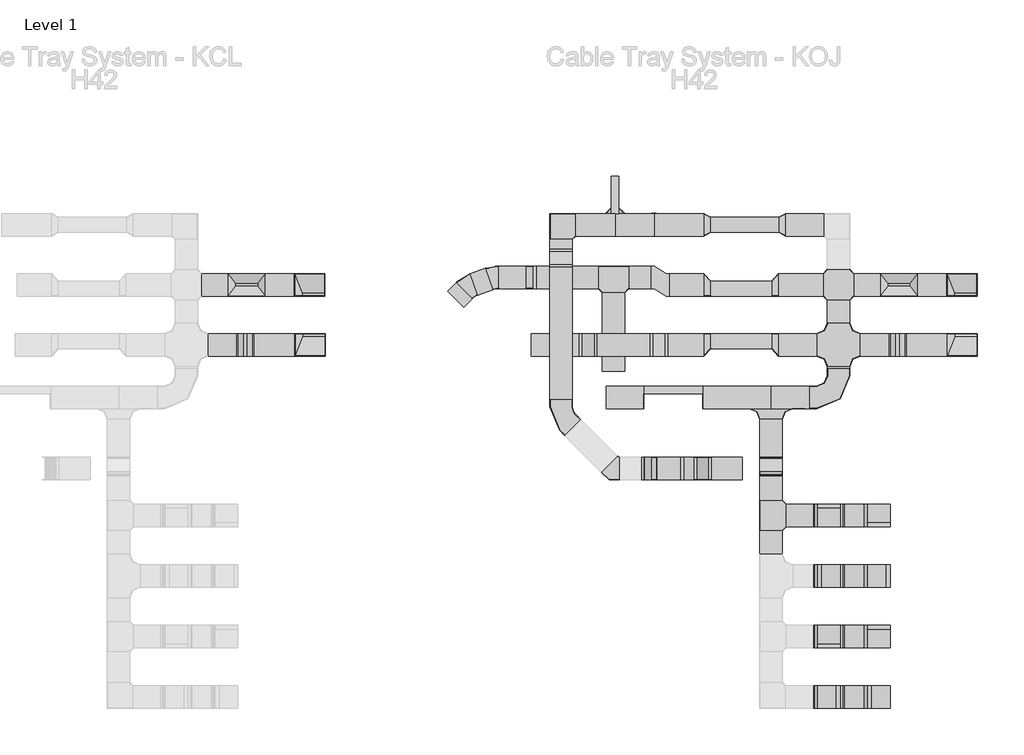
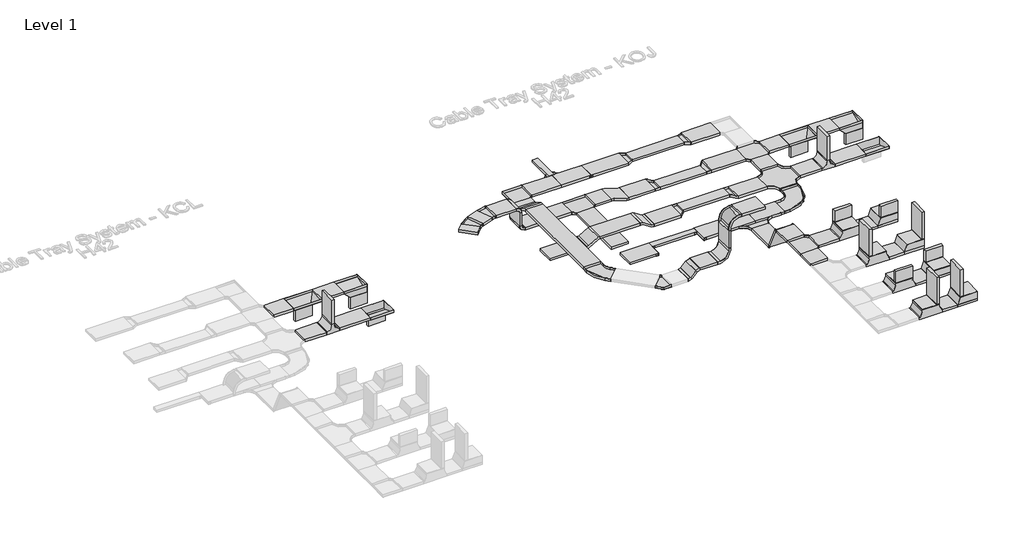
# One storey, part 3 of 106: 65 cable carrier segments, 50 cable carrier fittings.
"""IFC4 building model written with IfcOpenShell, lengths in millimetres."""

from ifc_helpers import new_model, si_unit, frame, origin, place, context, project, spatial, polyline, outline, extrude, transform, mapped, element, save
from components import cable_carrier_fitting_2f03b0e3, cable_carrier_fitting_e5c8e40d, cable_carrier_fitting_89415aa4, cable_carrier_fitting_efa56db2, cable_carrier_fitting_91cb0ece, cable_carrier_fitting_9cc64f74, cable_carrier_fitting_881c8fdb, cable_carrier_fitting_302010ec, cable_carrier_fitting_bee8c25e, cable_carrier_fitting_2b67af39, cable_carrier_fitting_400b97e6, cable_carrier_fitting_736d034b, cable_carrier_fitting_af289c29, cable_carrier_fitting_3ff81d9b, cable_carrier_fitting_7d5806c9, cable_carrier_fitting_0ce080ce, cable_carrier_fitting_1724e2f5, cable_carrier_fitting_0e05e12f, cable_carrier_fitting_aa4403b1, cable_carrier_fitting_df0feb0d, cable_carrier_fitting_b8cc1d00, cable_carrier_fitting_19ef2403, cable_carrier_fitting_0fee3a18, cable_carrier_fitting_e93d4d17, cable_carrier_fitting_f62230c1, cable_carrier_fitting_68112528, cable_carrier_fitting_3c0e6721, cable_carrier_fitting_94ef316f, cable_carrier_fitting_d4aa8912, cable_carrier_fitting_70c157f5, cable_carrier_fitting_f138ef00, cable_carrier_fitting_b296faec, cable_carrier_fitting_717dd42d, cable_carrier_fitting_55953e98, cable_carrier_fitting_c1d9b0e5, rkj200_h42_1d64d163, rkj200_h42_0f858a6a

model = new_model("IFC4")

# Units and contexts
model_context = context("Model", 3, world=origin())
ifc_project = project(units=[si_unit("LENGTHUNIT", "METRE", prefix="MILLI")], contexts=[model_context])

# Site, building, storey
site = spatial("IfcSite", under=ifc_project)
building = spatial("IfcBuilding", under=site)
storey = spatial("IfcBuildingStorey", under=building, Name="Level 1", Elevation=0.0)

# Cable carrier fittings
placement = place(None, origin())
cable_carrier_fitting_shape = cable_carrier_fitting_2f03b0e3(model_context)
element("IfcCableCarrierFitting", 1, ObjectType="BAKS_Vertical tee symetrical : TRSNJ_H42", at=placement, inside=storey, context=model_context, shape_type="MappedRepresentation", body=[
    mapped(cable_carrier_fitting_shape, transform((-15558.1670538, 44980.8714214, 0.0), x_axis=(1.0, 0.0, 0.0), y_axis=(0.0, -1.0, 0.0), z_axis=(0.0, 0.0, -1.0))),
])
element("IfcCableCarrierFitting", 2, ObjectType="BAKS_Vertical tee symetrical : TRSNJ_H42", at=placement, inside=storey, context=model_context, shape_type="MappedRepresentation", body=[
    mapped(cable_carrier_fitting_shape, transform((-6858.1670538, 44980.8714214, 0.0), x_axis=(1.0, 0.0, 0.0), y_axis=(0.0, -1.0, 0.0), z_axis=(0.0, 0.0, -1.0))),
])
cable_carrier_fitting_2_shape = cable_carrier_fitting_e5c8e40d(model_context)
element("IfcCableCarrierFitting", 3, ObjectType="BAKS_SUB_Corner connector : LRJ_H42", at=placement, inside=storey, context=model_context, shape_type="MappedRepresentation", body=[
    mapped(cable_carrier_fitting_2_shape, transform((-10675.1670538, 46730.8714214, -21.0), x_axis=(-1.0, 0.0, 0.0), y_axis=(0.0, -1.0, 0.0), z_axis=(0.0, 0.0, 1.0))),
])
element("IfcCableCarrierFitting", 4, ObjectType="BAKS_SUB_Corner connector : LRJ_H42", at=placement, inside=storey, context=model_context, shape_type="MappedRepresentation", body=[
    mapped(cable_carrier_fitting_2_shape, transform((-10575.1670538, 46730.8714214, -21.0), x_axis=(0.0, 1.0, 0.0), y_axis=(-1.0, 0.0, 0.0), z_axis=(0.0, 0.0, 1.0))),
])
cable_carrier_fitting_3_shape = cable_carrier_fitting_89415aa4(model_context)
element("IfcCableCarrierFitting", 5, ObjectType="BAKS_Horizontal bend : KKBL/KKMBL_H42", at=placement, inside=storey, context=model_context, shape_type="MappedRepresentation", body=[
    mapped(cable_carrier_fitting_3_shape, transform((-10643.6670538, 43331.3714214, 100.0), x_axis=(0.7071067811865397, -0.7071067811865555, 0.0), y_axis=(0.7071067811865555, 0.7071067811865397, 0.0), z_axis=(0.0, 0.0, 1.0))),
])
cable_carrier_fitting_4_shape = cable_carrier_fitting_efa56db2(model_context)
element("IfcCableCarrierFitting", 6, ObjectType="BAKS_Horizontal bypass : OPZNJ_H42", at=placement, inside=storey, context=model_context, shape_type="MappedRepresentation", body=[
    mapped(cable_carrier_fitting_4_shape, transform((-10022.1670538, 45780.8714214, 0.0), x_axis=(-1.0, 0.0, 0.0), y_axis=(0.0, 1.0, 0.0), z_axis=(0.0, 0.0, -1.0))),
])
cable_carrier_fitting_5_shape = cable_carrier_fitting_91cb0ece(model_context)
element("IfcCableCarrierFitting", 7, ObjectType="BAKS_Horizontal cross over : CZKL_H42", at=placement, inside=storey, context=model_context, shape_type="MappedRepresentation", body=[
    mapped(cable_carrier_fitting_5_shape, transform((-7643.1670538, 45780.8714214, 0.0), x_axis=(0.0, -1.0, 0.0), y_axis=(1.0, 0.0, 0.0), z_axis=(0.0, 0.0, 1.0))),
])
cable_carrier_fitting_6_shape = cable_carrier_fitting_9cc64f74(model_context)
element("IfcCableCarrierFitting", 8, ObjectType="BAKS_Horizontal tee : TKL_H42", at=placement, inside=storey, context=model_context, shape_type="MappedRepresentation", body=[
    mapped(cable_carrier_fitting_6_shape, transform((-10643.6670538, 45880.8714214, 0.0), x_axis=(1.0, 0.0, 0.0), y_axis=(0.0, 1.0, 0.0), z_axis=(0.0, 0.0, 1.0))),
])
element("IfcCableCarrierFitting", 9, ObjectType="BAKS_Horizontal tee : TKL_H42", at=placement, inside=storey, context=model_context, shape_type="MappedRepresentation", body=[
    mapped(cable_carrier_fitting_6_shape, transform((-8546.1670538, 42703.8631068, 432.5277378), x_axis=(0.0, 1.0, 0.0), y_axis=(-1.0, 0.0, 0.0), z_axis=(0.0, 0.0, 1.0))),
])
cable_carrier_fitting_7_shape = cable_carrier_fitting_881c8fdb(model_context)
element("IfcCableCarrierFitting", 10, ObjectType="BAKS_Universal elbow : KRUMJ_H42", at=placement, inside=storey, context=model_context, shape_type="MappedRepresentation", body=[
    mapped(cable_carrier_fitting_7_shape, transform((-7306.1670538, 41896.5802898, 432.5277378), x_axis=(1.0, 0.0, 0.0), y_axis=(0.0, 1.0, 0.0), z_axis=(0.0, 0.0, 1.0))),
])
cable_carrier_fitting_8_shape = cable_carrier_fitting_302010ec(model_context)
element("IfcCableCarrierFitting", 11, ObjectType="BAKS_Universal tee : TRUNJ_H42", at=placement, inside=storey, context=model_context, shape_type="MappedRepresentation", body=[
    mapped(cable_carrier_fitting_8_shape, transform((-7773.5199976, 41896.5802898, 432.5277378), x_axis=(-1.0, 0.0, 0.0), y_axis=(0.0, -1.0, 0.0), z_axis=(0.0, 0.0, 1.0))),
])
cable_carrier_fitting_9_shape = cable_carrier_fitting_bee8c25e(model_context)
element("IfcCableCarrierFitting", 12, ObjectType="BAKS_Vertical bend adjustable : LLL/LLJ_H42", at=placement, inside=storey, context=model_context, shape_type="MappedRepresentation", body=[
    mapped(cable_carrier_fitting_9_shape, transform((-9546.2659001, 43331.3714214, 237.4011537), x_axis=(1.0, 0.0, 0.0), y_axis=(0.0, 0.0, 1.0), z_axis=(0.0, -1.0, 0.0))),
])
element("IfcCableCarrierFitting", 13, ObjectType="BAKS_Vertical bend adjustable : LLL/LLJ_H42", at=placement, inside=storey, context=model_context, shape_type="MappedRepresentation", body=[
    mapped(cable_carrier_fitting_9_shape, transform((-9546.2659001, 43331.3714214, 977.4011537), x_axis=(0.0, 0.0, 1.0), y_axis=(1.0, 0.0, 0.0), z_axis=(0.0, 1.0, 0.0))),
])
cable_carrier_fitting_10_shape = cable_carrier_fitting_2b67af39(model_context)
element("IfcCableCarrierFitting", 14, ObjectType="BAKS_Vertical bypass : OPNNJ_H42", at=placement, inside=storey, context=model_context, shape_type="MappedRepresentation", body=[
    mapped(cable_carrier_fitting_10_shape, transform((-10986.6670538, 44980.8714214, 100.0), x_axis=(-1.0, 0.0, 0.0), y_axis=(0.0, -1.0, 0.0), z_axis=(0.0, 0.0, 1.0))),
])
cable_carrier_fitting_11_shape = cable_carrier_fitting_400b97e6(model_context)
element("IfcCableCarrierFitting", 15, ObjectType="BAKS_Vertical elbow left : KRLBJ_H42", at=placement, inside=storey, context=model_context, shape_type="MappedRepresentation", body=[
    mapped(cable_carrier_fitting_11_shape, transform((-14908.1670538, 45780.8714214, 0.0), x_axis=(1.0, 0.0, 0.0), y_axis=(0.0, 1.0, 0.0), z_axis=(0.0, 0.0, 1.0))),
])
element("IfcCableCarrierFitting", 16, ObjectType="BAKS_Vertical elbow left : KRLBJ_H42", at=placement, inside=storey, context=model_context, shape_type="MappedRepresentation", body=[
    mapped(cable_carrier_fitting_11_shape, transform((-6208.1670538, 45780.8714214, 0.0), x_axis=(1.0, 0.0, 0.0), y_axis=(0.0, 1.0, 0.0), z_axis=(0.0, 0.0, 1.0))),
])
cable_carrier_fitting_12_shape = cable_carrier_fitting_736d034b(model_context)
element("IfcCableCarrierFitting", 17, ObjectType="BAKS_Vertical tee lengthwise : TRBJ_H42", at=placement, inside=storey, context=model_context, shape_type="MappedRepresentation", body=[
    mapped(cable_carrier_fitting_12_shape, transform((-15538.1670538, 45780.8714214, 0.0), x_axis=(-1.0, 0.0, 0.0), y_axis=(0.0, -1.0, 0.0), z_axis=(0.0, 0.0, 1.0))),
])
element("IfcCableCarrierFitting", 18, ObjectType="BAKS_Vertical tee lengthwise : TRBJ_H42", at=placement, inside=storey, context=model_context, shape_type="MappedRepresentation", body=[
    mapped(cable_carrier_fitting_12_shape, transform((-6838.1670538, 45780.8714214, 0.0), x_axis=(-1.0, 0.0, 0.0), y_axis=(0.0, -1.0, 0.0), z_axis=(0.0, 0.0, 1.0))),
])
cable_carrier_fitting_13_shape = cable_carrier_fitting_af289c29(model_context)
element("IfcCableCarrierFitting", 19, ObjectType="BAKS_Articulated_connector : LGJ_H42", at=placement, inside=storey, context=model_context, shape_type="MappedRepresentation", body=[
    mapped(cable_carrier_fitting_13_shape, transform((-8546.1670538, 43458.7056523, 0.0), x_axis=(0.0, -1.0, 0.0), y_axis=(0.0, 0.0, 1.0), z_axis=(-1.0, 0.0, 0.0))),
])
element("IfcCableCarrierFitting", 20, ObjectType="BAKS_Articulated_connector : LGJ_H42", at=placement, inside=storey, context=model_context, shape_type="MappedRepresentation", body=[
    mapped(cable_carrier_fitting_13_shape, transform((-8546.1670538, 43257.0146558, 432.5277378), x_axis=(0.0, -0.42261826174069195, 0.9063077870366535), y_axis=(0.0, -0.9063077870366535, -0.42261826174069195), z_axis=(1.0, 0.0, 0.0))),
])
cable_carrier_fitting_14_shape = cable_carrier_fitting_3ff81d9b(model_context)
element("IfcCableCarrierFitting", 21, ObjectType="BAKS_Universal tee : TRUNJ_H42", at=placement, inside=storey, context=model_context, shape_type="MappedRepresentation", body=[
    mapped(cable_carrier_fitting_14_shape, transform((-7773.5199976, 42703.8631068, 432.5277378), x_axis=(-1.0, 0.0, 0.0), y_axis=(0.0, -1.0, 0.0), z_axis=(0.0, 0.0, 1.0))),
])
cable_carrier_fitting_15_shape = cable_carrier_fitting_7d5806c9(model_context)
element("IfcCableCarrierFitting", 22, ObjectType="BAKS_Universal tee : TRUNJ_H42", at=placement, inside=storey, context=model_context, shape_type="MappedRepresentation", body=[
    mapped(cable_carrier_fitting_15_shape, transform((-7773.5199976, 41089.2974728, 432.5277378), x_axis=(-1.0, 0.0, 0.0), y_axis=(0.0, -1.0, 0.0), z_axis=(0.0, 0.0, 1.0))),
])
cable_carrier_fitting_16_shape = cable_carrier_fitting_0ce080ce(model_context)
element("IfcCableCarrierFitting", 23, ObjectType="BAKS_Universal tee : TRUNJ_H42", at=placement, inside=storey, context=model_context, shape_type="MappedRepresentation", body=[
    mapped(cable_carrier_fitting_16_shape, transform((-7773.5199976, 40282.0146558, 432.5277378), x_axis=(-1.0, 0.0, 0.0), y_axis=(0.0, -1.0, 0.0), z_axis=(0.0, 0.0, 1.0))),
])
cable_carrier_fitting_17_shape = cable_carrier_fitting_1724e2f5(model_context)
element("IfcCableCarrierFitting", 24, ObjectType="BAKS_Vertical bypass : OPNNJ_H42", at=placement, inside=storey, context=model_context, shape_type="MappedRepresentation", body=[
    mapped(cable_carrier_fitting_17_shape, transform((-10043.6670538, 44980.8714214, 0.0), x_axis=(-1.0, 0.0, 0.0), y_axis=(0.0, -1.0, 0.0), z_axis=(0.0, 0.0, 1.0))),
])
element("IfcCableCarrierFitting", 25, ObjectType="BAKS_Vertical bypass : OPNNJ_H42", at=placement, inside=storey, context=model_context, shape_type="MappedRepresentation", body=[
    mapped(cable_carrier_fitting_17_shape, transform((-11343.1670538, 46139.3714214, 0.0), x_axis=(0.0, -1.0, 0.0), y_axis=(1.0, 0.0, 0.0), z_axis=(0.0, 0.0, 1.0))),
])
cable_carrier_fitting_18_shape = cable_carrier_fitting_0e05e12f(model_context)
element("IfcCableCarrierFitting", 26, ObjectType="BAKS_Universal elbow : KRUMJ_H42", at=placement, inside=storey, context=model_context, shape_type="MappedRepresentation", body=[
    mapped(cable_carrier_fitting_18_shape, transform((-7306.1670538, 42703.8631068, 432.5277378), x_axis=(1.0, 0.0, 0.0), y_axis=(0.0, 1.0, 0.0), z_axis=(0.0, 0.0, 1.0))),
])
cable_carrier_fitting_19_shape = cable_carrier_fitting_aa4403b1(model_context)
element("IfcCableCarrierFitting", 27, ObjectType="BAKS_Universal elbow : KRUMJ_H42", at=placement, inside=storey, context=model_context, shape_type="MappedRepresentation", body=[
    mapped(cable_carrier_fitting_19_shape, transform((-7306.1670538, 41089.2974728, 432.5277378), x_axis=(1.0, 0.0, 0.0), y_axis=(0.0, 1.0, 0.0), z_axis=(0.0, 0.0, 1.0))),
])
cable_carrier_fitting_20_shape = cable_carrier_fitting_df0feb0d(model_context)
element("IfcCableCarrierFitting", 28, ObjectType="BAKS_Universal elbow : KRUMJ_H42", at=placement, inside=storey, context=model_context, shape_type="MappedRepresentation", body=[
    mapped(cable_carrier_fitting_20_shape, transform((-7306.1670538, 40282.0146558, 432.5277378), x_axis=(1.0, 0.0, 0.0), y_axis=(0.0, 1.0, 0.0), z_axis=(0.0, 0.0, 1.0))),
])
cable_carrier_fitting_21_shape = cable_carrier_fitting_b8cc1d00(model_context)
element("IfcCableCarrierFitting", 29, ObjectType="BAKS_Vertical elbow right : KRPJ_H42", at=placement, inside=storey, context=model_context, shape_type="MappedRepresentation", body=[
    mapped(cable_carrier_fitting_21_shape, transform((-14902.1670538, 44980.8714214, 0.0), x_axis=(1.0, 0.0, 0.0), y_axis=(0.0, 1.0, 0.0), z_axis=(0.0, 0.0, 1.0))),
])
element("IfcCableCarrierFitting", 30, ObjectType="BAKS_Vertical elbow right : KRPJ_H42", at=placement, inside=storey, context=model_context, shape_type="MappedRepresentation", body=[
    mapped(cable_carrier_fitting_21_shape, transform((-6202.1670538, 44980.8714214, 0.0), x_axis=(1.0, 0.0, 0.0), y_axis=(0.0, 1.0, 0.0), z_axis=(0.0, 0.0, 1.0))),
])
cable_carrier_fitting_22_shape = cable_carrier_fitting_19ef2403(model_context)
element("IfcCableCarrierFitting", 31, ObjectType="BAKS_Adjustable bend : KKRPJ_H42", at=placement, inside=storey, context=model_context, shape_type="MappedRepresentation", body=[
    mapped(cable_carrier_fitting_22_shape, transform((-12581.9563973, 45757.7441698, 400.0), x_axis=(-0.9396926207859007, -0.34202014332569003, 0.0), y_axis=(0.34202014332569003, -0.9396926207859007, 0.0), z_axis=(0.0, 0.0, 1.0))),
])
cable_carrier_fitting_23_shape = cable_carrier_fitting_0fee3a18(model_context)
element("IfcCableCarrierFitting", 32, ObjectType="BAKS_Adjustable bend : KKRPJ_H42", at=placement, inside=storey, context=model_context, shape_type="MappedRepresentation", body=[
    mapped(cable_carrier_fitting_23_shape, transform((-12243.6670538, 45880.8714214, 400.0), x_axis=(-1.0, 0.0, 0.0), y_axis=(0.0, -1.0, 0.0), z_axis=(0.0, 0.0, 1.0))),
])
cable_carrier_fitting_24_shape = cable_carrier_fitting_e93d4d17(model_context)
element("IfcCableCarrierFitting", 33, ObjectType="BAKS_Plate connector : LPMU_H42", at=placement, inside=storey, context=model_context, shape_type="MappedRepresentation", body=[
    mapped(cable_carrier_fitting_24_shape, transform((-10103.1670538, 46580.8714214, 0.0), x_axis=(1.0, 0.0, 0.0), y_axis=(0.0, 1.0, 0.0), z_axis=(0.0, 0.0, 1.0))),
])
cable_carrier_fitting_25_shape = cable_carrier_fitting_f62230c1(model_context)
element("IfcCableCarrierFitting", 34, ObjectType="BAKS_Vertical bend LU : LLJ_H42", at=placement, inside=storey, context=model_context, shape_type="MappedRepresentation", body=[
    mapped(cable_carrier_fitting_25_shape, transform((-11743.6670538, 45880.8714214, 0.0), x_axis=(-1.0, 0.0, 0.0), y_axis=(0.0, 0.0, 1.0), z_axis=(0.0, 1.0, 0.0))),
])
element("IfcCableCarrierFitting", 35, ObjectType="BAKS_Vertical bend LU : LLJ_H42", at=placement, inside=storey, context=model_context, shape_type="MappedRepresentation", body=[
    mapped(cable_carrier_fitting_25_shape, transform((-11743.6670538, 45880.8714214, 400.0), x_axis=(0.0, 0.0, 1.0), y_axis=(-1.0, 0.0, 0.0), z_axis=(0.0, -1.0, 0.0))),
])
cable_carrier_fitting_26_shape = cable_carrier_fitting_68112528(model_context)
element("IfcCableCarrierFitting", 36, ObjectType="BAKS_Vertical bend LU : LLJ_H42", at=placement, inside=storey, context=model_context, shape_type="MappedRepresentation", body=[
    mapped(cable_carrier_fitting_26_shape, transform((-10243.6670538, 43331.3714214, 100.0), x_axis=(1.0, 0.0, 0.0), y_axis=(0.0, 0.0, 1.0), z_axis=(0.0, -1.0, 0.0))),
])
element("IfcCableCarrierFitting", 37, ObjectType="BAKS_Vertical bend LU : LLJ_H42", at=placement, inside=storey, context=model_context, shape_type="MappedRepresentation", body=[
    mapped(cable_carrier_fitting_26_shape, transform((-10106.2659001, 43331.3714214, 237.4011537), x_axis=(0.7071067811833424, 0.0, 0.7071067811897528), y_axis=(0.7071067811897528, 0.0, -0.7071067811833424), z_axis=(0.0, 1.0, 0.0))),
])
cable_carrier_fitting_27_shape = cable_carrier_fitting_3c0e6721(model_context)
element("IfcCableCarrierFitting", 38, ObjectType="BAKS_Horizontal cross over radius : CZKPJ_H42", at=placement, inside=storey, context=model_context, shape_type="MappedRepresentation", body=[
    mapped(cable_carrier_fitting_27_shape, transform((-7643.1670538, 44980.8714214, 0.0), x_axis=(0.0, -1.0, 0.0), y_axis=(1.0, 0.0, 0.0), z_axis=(0.0, 0.0, 1.0))),
])
cable_carrier_fitting_28_shape = cable_carrier_fitting_94ef316f(model_context)
element("IfcCableCarrierFitting", 39, ObjectType="BAKS_Reducer : RK(S/L/P)L_H42", at=placement, inside=storey, context=model_context, shape_type="MappedRepresentation", body=[
    mapped(cable_carrier_fitting_28_shape, transform((-9443.1670538, 46580.8714214, 0.0), x_axis=(1.0, 0.0, 0.0), y_axis=(0.0, 1.0, 0.0), z_axis=(0.0, 0.0, 1.0))),
])
cable_carrier_fitting_29_shape = cable_carrier_fitting_d4aa8912(model_context)
element("IfcCableCarrierFitting", 40, ObjectType="BAKS_Reducer : RK(S/L/P)L_H42", at=placement, inside=storey, context=model_context, shape_type="MappedRepresentation", body=[
    mapped(cable_carrier_fitting_29_shape, transform((-8443.1670538, 46580.8714214, 0.0), x_axis=(1.0, 0.0, 0.0), y_axis=(0.0, 1.0, 0.0), z_axis=(0.0, 0.0, 1.0))),
])
cable_carrier_fitting_30_shape = cable_carrier_fitting_70c157f5(model_context)
element("IfcCableCarrierFitting", 41, ObjectType="BAKS_Reducer : RK(S/L/P)L_H42", at=placement, inside=storey, context=model_context, shape_type="MappedRepresentation", body=[
    mapped(cable_carrier_fitting_30_shape, transform((-9443.1670538, 45780.8714214, 0.0), x_axis=(1.0, 0.0, 0.0), y_axis=(0.0, 1.0, 0.0), z_axis=(0.0, 0.0, 1.0))),
])
element("IfcCableCarrierFitting", 42, ObjectType="BAKS_Reducer : RK(S/L/P)L_H42", at=placement, inside=storey, context=model_context, shape_type="MappedRepresentation", body=[
    mapped(cable_carrier_fitting_30_shape, transform((-8443.1670538, 44980.8714214, 0.0), x_axis=(-1.0, 0.0, 0.0), y_axis=(0.0, -1.0, 0.0), z_axis=(0.0, 0.0, 1.0))),
])
cable_carrier_fitting_31_shape = cable_carrier_fitting_f138ef00(model_context)
element("IfcCableCarrierFitting", 43, ObjectType="BAKS_Reducer : RK(S/L/P)L_H42", at=placement, inside=storey, context=model_context, shape_type="MappedRepresentation", body=[
    mapped(cable_carrier_fitting_31_shape, transform((-8443.1670538, 45780.8714214, 0.0), x_axis=(-1.0, 0.0, 0.0), y_axis=(0.0, -1.0, 0.0), z_axis=(0.0, 0.0, 1.0))),
])
element("IfcCableCarrierFitting", 44, ObjectType="BAKS_Reducer : RK(S/L/P)L_H42", at=placement, inside=storey, context=model_context, shape_type="MappedRepresentation", body=[
    mapped(cable_carrier_fitting_31_shape, transform((-9443.1670538, 44980.8714214, 0.0), x_axis=(1.0, 0.0, 0.0), y_axis=(0.0, 1.0, 0.0), z_axis=(0.0, 0.0, 1.0))),
])
cable_carrier_fitting_32_shape = cable_carrier_fitting_b296faec(model_context)
element("IfcCableCarrierFitting", 45, ObjectType="BAKS_Horizontal addon tee : TKDJ_H42", at=placement, inside=storey, context=model_context, shape_type="MappedRepresentation", body=[
    mapped(cable_carrier_fitting_32_shape, transform((-8546.1670538, 44280.8714214, 0.0), x_axis=(1.0, 0.0, 0.0), y_axis=(0.0, 1.0, 0.0), z_axis=(0.0, 0.0, 1.0))),
])
cable_carrier_fitting_33_shape = cable_carrier_fitting_717dd42d(model_context)
element("IfcCableCarrierFitting", 46, ObjectType="BAKS_Horizontal bend : KKBL/KKMBL_H42", at=placement, inside=storey, context=model_context, shape_type="MappedRepresentation", body=[
    mapped(cable_carrier_fitting_33_shape, transform((-11343.1670538, 46580.8714214, 0.0), x_axis=(-1.0, 0.0, 0.0), y_axis=(0.0, -1.0, 0.0), z_axis=(0.0, 0.0, 1.0))),
])
cable_carrier_fitting_34_shape = cable_carrier_fitting_55953e98(model_context)
element("IfcCableCarrierFitting", 47, ObjectType="BAKS_Horizontal bend radius : KKPJ/KKMPJ_H42", at=placement, inside=storey, context=model_context, shape_type="MappedRepresentation", body=[
    mapped(cable_carrier_fitting_34_shape, transform((-11343.1670538, 44030.8714214, 100.0), x_axis=(0.0, -1.0, 0.0), y_axis=(1.0, 0.0, 0.0), z_axis=(0.0, 0.0, 1.0))),
])
cable_carrier_fitting_35_shape = cable_carrier_fitting_c1d9b0e5(model_context)
element("IfcCableCarrierFitting", 48, ObjectType="BAKS_Horizontal bend radius : KKPJ/KKMPJ_H42", at=placement, inside=storey, context=model_context, shape_type="MappedRepresentation", body=[
    mapped(cable_carrier_fitting_35_shape, transform((-7643.1670538, 44280.8714214, 0.0), x_axis=(1.0, 0.0, 0.0), y_axis=(0.0, 1.0, 0.0), z_axis=(0.0, 0.0, 1.0))),
])
rkj200_h42_shape = rkj200_h42_1d64d163(model_context)
element("IfcCableCarrierFitting", 49, ObjectType="BAKS_SUB_Reduction angular : RKJ200_H42", at=placement, inside=storey, context=model_context, shape_type="MappedRepresentation", body=[
    mapped(rkj200_h42_shape, transform((-10243.1670538, 44130.8714214, -21.0), x_axis=(1.0, 0.0, 0.0), y_axis=(0.0, 1.0, 0.0), z_axis=(0.0, 0.0, 1.0))),
])
rkj200_h42_2_shape = rkj200_h42_0f858a6a(model_context)
element("IfcCableCarrierFitting", 50, ObjectType="BAKS_SUB_Reduction angular : RKJ200_H42", at=placement, inside=storey, context=model_context, shape_type="MappedRepresentation", body=[
    mapped(rkj200_h42_2_shape, transform((-9453.1670538, 44130.8714214, -21.0), x_axis=(-1.0, 0.0, 0.0), y_axis=(0.0, -1.0, 0.0), z_axis=(0.0, 0.0, 1.0))),
])

# Cable carrier segments
element("IfcCableCarrierSegment", 51, ObjectType="BAKS - Cable tray H42 (KCL)", at=placement, inside=storey, context=model_context, shape_type="SweptSolid", body=[
    extrude(outline(polyline([(-16138.1670538, 45630.8714214), (-16138.1670538, 45930.8714214), (-15788.1670538, 45930.8714214), (-15788.1670538, 45630.8714214), (-16138.1670538, 45630.8714214)])), frame((0.0, 0.0, -21.0), z_axis=(0.0, 0.0, 1.0), x_axis=(1.0, 0.0, 0.0)), (0.0, 0.0, 1.0), 42.0),
])
element("IfcCableCarrierSegment", 52, ObjectType="BAKS - Cable tray H42 (KCL)", at=placement, inside=storey, context=model_context, shape_type="SweptSolid", body=[
    extrude(outline(polyline([(-16052.1670538, 44830.8714214), (-16052.1670538, 45130.8714214), (-15674.1670538, 45130.8714214), (-15674.1670538, 44830.8714214), (-16052.1670538, 44830.8714214)])), frame((0.0, 0.0, -21.0), z_axis=(0.0, 0.0, 1.0), x_axis=(1.0, 0.0, 0.0)), (0.0, 0.0, 1.0), 42.0),
])
element("IfcCableCarrierSegment", 53, ObjectType="BAKS - Cable tray H42 (KCL)", at=placement, inside=storey, context=model_context, shape_type="SweptSolid", body=[
    extrude(outline(polyline([(-15442.1670538, 44830.8714214), (-15442.1670538, 45130.8714214), (-14902.1670538, 45130.8714214), (-14902.1670538, 44830.8714214), (-15442.1670538, 44830.8714214)])), frame((0.0, 0.0, -21.0), z_axis=(0.0, 0.0, 1.0), x_axis=(1.0, 0.0, 0.0)), (0.0, 0.0, 1.0), 42.0),
])
element("IfcCableCarrierSegment", 54, ObjectType="BAKS - Cable tray H42 (KCL)", at=placement, inside=storey, context=model_context, shape_type="SweptSolid", body=[
    extrude(outline(polyline([(-15537.1670538, 44830.8714214), (-15579.1670538, 44830.8714214), (-15579.1670538, 45130.8714214), (-15537.1670538, 45130.8714214), (-15537.1670538, 44830.8714214)])), frame((0.0, 0.0, 136.0), z_axis=(0.0, 0.0, 1.0), x_axis=(1.0, 0.0, 0.0)), (0.0, 0.0, 1.0), 449.0),
])
element("IfcCableCarrierSegment", 55, ObjectType="BAKS - Cable tray H42 (KCL)", at=placement, inside=storey, context=model_context, shape_type="SweptSolid", body=[
    extrude(outline(polyline([(-15288.1670538, 45630.8714214), (-15288.1670538, 45930.8714214), (-14908.1670538, 45930.8714214), (-14908.1670538, 45630.8714214), (-15288.1670538, 45630.8714214)])), frame((0.0, 0.0, -21.0), z_axis=(0.0, 0.0, 1.0), x_axis=(1.0, 0.0, 0.0)), (0.0, 0.0, 1.0), 42.0),
])
element("IfcCableCarrierSegment", 56, ObjectType="BAKS - Cable tray H42 (KOJ)", at=placement, inside=storey, context=model_context, shape_type="SweptSolid", body=[
    extrude(outline(polyline([(-10102.1670538, 46430.8714214), (-10102.1670538, 46730.8714214), (-9443.1670538, 46730.8714214), (-9443.1670538, 46430.8714214), (-10102.1670538, 46430.8714214)])), frame((0.0, 0.0, -21.0), z_axis=(0.0, 0.0, 1.0), x_axis=(1.0, 0.0, 0.0)), (0.0, 0.0, 1.0), 42.0),
])
element("IfcCableCarrierSegment", 57, ObjectType="BAKS - Cable tray H42 (KOJ)", at=placement, inside=storey, context=model_context, shape_type="SweptSolid", body=[
    extrude(outline(polyline([(-9348.1670538, 46480.8714214), (-9348.1670538, 46680.8714214), (-8443.1670538, 46680.8714214), (-8443.1670538, 46480.8714214), (-9348.1670538, 46480.8714214)])), frame((0.0, 0.0, -21.0), z_axis=(0.0, 0.0, 1.0), x_axis=(1.0, 0.0, 0.0)), (0.0, 0.0, 1.0), 42.0),
])
element("IfcCableCarrierSegment", 58, ObjectType="BAKS - Cable tray H42 (KOJ)", at=placement, inside=storey, context=model_context, shape_type="SweptSolid", body=[
    extrude(outline(polyline([(-8348.1670538, 46430.8714214), (-8348.1670538, 46730.8714214), (-7839.1670538, 46730.8714214), (-7839.1670538, 46430.8714214), (-8348.1670538, 46430.8714214)])), frame((0.0, 0.0, -21.0), z_axis=(0.0, 0.0, 1.0), x_axis=(1.0, 0.0, 0.0)), (0.0, 0.0, 1.0), 42.0),
])
element("IfcCableCarrierSegment", 59, ObjectType="BAKS - Cable tray H42 (KOJ)", at=placement, inside=storey, context=model_context, shape_type="SweptSolid", body=[
    extrude(outline(polyline([(-7793.1670538, 45575.8714214), (-7493.1670538, 45575.8714214), (-7493.1670538, 45271.8714214), (-7793.1670538, 45271.8714214), (-7793.1670538, 45575.8714214)])), frame((0.0, 0.0, -21.0), z_axis=(0.0, 0.0, 1.0), x_axis=(1.0, 0.0, 0.0)), (0.0, 0.0, 1.0), 42.0),
])
element("IfcCableCarrierSegment", 60, ObjectType="BAKS - Cable tray H42 (KOJ)", at=placement, inside=storey, context=model_context, shape_type="SweptSolid", body=[
    extrude(outline(polyline([(-8538.1670538, 45830.8714214), (-8538.1670538, 45630.8714214), (-9348.1670538, 45630.8714214), (-9348.1670538, 45830.8714214), (-8538.1670538, 45830.8714214)])), frame((0.0, 0.0, -21.0), z_axis=(0.0, 0.0, 1.0), x_axis=(1.0, 0.0, 0.0)), (0.0, 0.0, 1.0), 42.0),
])
element("IfcCableCarrierSegment", 61, ObjectType="BAKS - Cable tray H42 (KOJ)", at=placement, inside=storey, context=model_context, shape_type="SweptSolid", body=[
    extrude(outline(polyline([(-9900.6670538, 45630.8714214), (-9900.6670538, 45930.8714214), (-9443.1670538, 45930.8714214), (-9443.1670538, 45630.8714214), (-9900.6670538, 45630.8714214)])), frame((0.0, 0.0, -21.0), z_axis=(0.0, 0.0, 1.0), x_axis=(1.0, 0.0, 0.0)), (0.0, 0.0, 1.0), 42.0),
])
element("IfcCableCarrierSegment", 62, ObjectType="BAKS - Cable tray H42 (KOJ)", at=placement, inside=storey, context=model_context, shape_type="SweptSolid", body=[
    extrude(outline(polyline([(-7848.1670538, 45930.8714214), (-7848.1670538, 45630.8714214), (-8443.1670538, 45630.8714214), (-8443.1670538, 45930.8714214), (-7848.1670538, 45930.8714214)])), frame((0.0, 0.0, -21.0), z_axis=(0.0, 0.0, 1.0), x_axis=(1.0, 0.0, 0.0)), (0.0, 0.0, 1.0), 42.0),
])
element("IfcCableCarrierSegment", 63, ObjectType="BAKS - Cable tray H42 (KOJ)", at=placement, inside=storey, context=model_context, shape_type="SweptSolid", body=[
    extrude(outline(polyline([(-8538.1670538, 45130.8714214), (-8538.1670538, 44930.8714214), (-9348.1670538, 44930.8714214), (-9348.1670538, 45130.8714214), (-8538.1670538, 45130.8714214)])), frame((0.0, 0.0, -21.0), z_axis=(0.0, 0.0, 1.0), x_axis=(1.0, 0.0, 0.0)), (0.0, 0.0, 1.0), 42.0),
])
element("IfcCableCarrierSegment", 64, ObjectType="BAKS - Cable tray H42 (KOJ)", at=placement, inside=storey, context=model_context, shape_type="SweptSolid", body=[
    extrude(outline(polyline([(-9922.1670538, 44830.8714214), (-9922.1670538, 45130.8714214), (-9443.1670538, 45130.8714214), (-9443.1670538, 44830.8714214), (-9922.1670538, 44830.8714214)])), frame((0.0, 0.0, -21.0), z_axis=(0.0, 0.0, 1.0), x_axis=(1.0, 0.0, 0.0)), (0.0, 0.0, 1.0), 42.0),
])
element("IfcCableCarrierSegment", 65, ObjectType="BAKS - Cable tray H42 (KOJ)", at=placement, inside=storey, context=model_context, shape_type="SweptSolid", body=[
    extrude(outline(polyline([(-7934.1670538, 45130.8714214), (-7934.1670538, 44830.8714214), (-8443.1670538, 44830.8714214), (-8443.1670538, 45130.8714214), (-7934.1670538, 45130.8714214)])), frame((0.0, 0.0, -21.0), z_axis=(0.0, 0.0, 1.0), x_axis=(1.0, 0.0, 0.0)), (0.0, 0.0, 1.0), 42.0),
])
element("IfcCableCarrierSegment", 66, ObjectType="BAKS - Cable tray H42 (KOJ)", at=placement, inside=storey, context=model_context, shape_type="SweptSolid", body=[
    extrude(outline(polyline([(-10848.6670538, 46030.8714214), (-10848.6670538, 45730.8714214), (-11667.6670538, 45730.8714214), (-11667.6670538, 46030.8714214), (-10848.6670538, 46030.8714214)])), frame((0.0, 0.0, -21.0), z_axis=(0.0, 0.0, 1.0), x_axis=(1.0, 0.0, 0.0)), (0.0, 0.0, 1.0), 42.0),
])
element("IfcCableCarrierSegment", 67, ObjectType="BAKS - Cable tray H42 (KOJ)", at=placement, inside=storey, context=model_context, shape_type="SweptSolid", body=[
    extrude(outline(polyline([(-10165.1670538, 45130.8714214), (-10165.1670538, 44830.8714214), (-10865.1670538, 44830.8714214), (-10865.1670538, 45130.8714214), (-10165.1670538, 45130.8714214)])), frame((0.0, 0.0, 79.0), z_axis=(0.0, 0.0, 1.0), x_axis=(1.0, 0.0, 0.0)), (0.0, 0.0, 1.0), 42.0),
])
element("IfcCableCarrierSegment", 68, ObjectType="BAKS - Cable tray H42 (KOJ)", at=placement, inside=storey, context=model_context, shape_type="SweptSolid", body=[
    extrude(outline(polyline([(-11493.1670538, 46384.8714214), (-11193.1670538, 46384.8714214), (-11193.1670538, 46260.8714214), (-11493.1670538, 46260.8714214), (-11493.1670538, 46384.8714214)])), frame((0.0, 0.0, -21.0), z_axis=(0.0, 0.0, 1.0), x_axis=(1.0, 0.0, 0.0)), (0.0, 0.0, 1.0), 42.0),
])
element("IfcCableCarrierSegment", 69, ObjectType="BAKS - Cable tray H42 (KOJ)", at=placement, inside=storey, context=model_context, shape_type="SweptSolid", body=[
    extrude(outline(polyline([(-10793.6670538, 45675.8714214), (-10493.6670538, 45675.8714214), (-10493.6670538, 44630.8714214), (-10793.6670538, 44630.8714214), (-10793.6670538, 45675.8714214)])), frame((0.0, 0.0, -21.0), z_axis=(0.0, 0.0, 1.0), x_axis=(1.0, 0.0, 0.0)), (0.0, 0.0, 1.0), 42.0),
])
element("IfcCableCarrierSegment", 70, ObjectType="BAKS - Cable tray H42 (KOJ)", at=placement, inside=storey, context=model_context, shape_type="SweptSolid", body=[
    extrude(outline(polyline([(-10143.6670538, 46030.8714214), (-10143.6670538, 45730.8714214), (-10438.6670538, 45730.8714214), (-10438.6670538, 46030.8714214), (-10143.6670538, 46030.8714214)])), frame((0.0, 0.0, -21.0), z_axis=(0.0, 0.0, 1.0), x_axis=(1.0, 0.0, 0.0)), (0.0, 0.0, 1.0), 42.0),
])
element("IfcCableCarrierSegment", 71, ObjectType="BAKS - Cable tray H42 (KOJ)", at=placement, inside=storey, context=model_context, shape_type="SweptSolid", body=[
    extrude(outline(polyline([(-11108.1670538, 45130.8714214), (-11108.1670538, 44830.8714214), (-11743.6670538, 44830.8714214), (-11743.6670538, 45130.8714214), (-11108.1670538, 45130.8714214)])), frame((0.0, 0.0, -21.0), z_axis=(0.0, 0.0, 1.0), x_axis=(1.0, 0.0, 0.0)), (0.0, 0.0, 1.0), 42.0),
])
element("IfcCableCarrierSegment", 72, ObjectType="BAKS - Cable tray H42 (KOJ)", at=placement, inside=storey, context=model_context, shape_type="SweptSolid", body=[
    extrude(outline(polyline([(-12177.5322294, 45730.8714214), (-12177.5322294, 46030.8714214), (-11819.6670538, 46030.8714214), (-11819.6670538, 45730.8714214), (-12177.5322294, 45730.8714214)])), frame((0.0, 0.0, 379.0), z_axis=(0.0, 0.0, 1.0), x_axis=(1.0, 0.0, 0.0)), (0.0, 0.0, 1.0), 42.0),
])
element("IfcCableCarrierSegment", 73, ObjectType="BAKS - Cable tray H42 (KOJ)", at=placement, inside=storey, context=model_context, shape_type="SweptSolid", body=[
    extrude(outline(polyline([(-11764.6670538, 46030.8714214), (-11722.6670538, 46030.8714214), (-11722.6670538, 45730.8714214), (-11764.6670538, 45730.8714214), (-11764.6670538, 46030.8714214)])), frame((0.0, 0.0, 76.0), z_axis=(0.0, 0.0, 1.0), x_axis=(1.0, 0.0, 0.0)), (0.0, 0.0, 1.0), 248.0),
])
element("IfcCableCarrierSegment", 74, ObjectType="BAKS - Cable tray H42 (KOJ)", at=placement, inside=storey, context=model_context, shape_type="SweptSolid", body=[
    extrude(outline(polyline([(-11193.1670538, 44250.9933545), (-11493.1670538, 44250.9933545), (-11493.1670538, 46017.8714214), (-11193.1670538, 46017.8714214), (-11193.1670538, 44250.9933545)])), frame((0.0, 0.0, 79.0), z_axis=(0.0, 0.0, 1.0), x_axis=(1.0, 0.0, 0.0)), (0.0, 0.0, 1.0), 42.0),
])
element("IfcCableCarrierSegment", 75, ObjectType="BAKS - Cable tray H42 (KOJ)", at=placement, inside=storey, context=model_context, shape_type="SweptSolid", body=[
    extrude(outline(polyline([(21.0, 1.4628667), (-21.0, 1.4628667), (-21.0, 301.4628667), (21.0, 301.4628667), (21.0, 1.4628667)])), frame((-10219.3361013, 43179.9085547, 124.3309524), z_axis=(0.7071067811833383, 0.0, 0.7071067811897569), x_axis=(0.7071067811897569, 0.0, -0.7071067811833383)), (0.0, 0.0, 1.0), 125.4962492),
])
element("IfcCableCarrierSegment", 76, ObjectType="BAKS - Cable tray H42 (KOJ)", at=placement, inside=storey, context=model_context, shape_type="SweptSolid", body=[
    extrude(outline(polyline([(-10071.8567371, 43181.3714214), (-10071.8567371, 43481.3714214), (-9757.2659001, 43481.3714214), (-9757.2659001, 43181.3714214), (-10071.8567371, 43181.3714214)])), frame((0.0, 0.0, 216.4011537), z_axis=(0.0, 0.0, 1.0), x_axis=(1.0, 0.0, 0.0)), (0.0, 0.0, 1.0), 42.0),
])
element("IfcCableCarrierSegment", 77, ObjectType="BAKS - Cable tray H42 (KOJ)", at=placement, inside=storey, context=model_context, shape_type="SweptSolid", body=[
    extrude(outline(polyline([(-9525.2659001, 43181.3714214), (-9567.2659001, 43181.3714214), (-9567.2659001, 43481.3714214), (-9525.2659001, 43481.3714214), (-9525.2659001, 43181.3714214)])), frame((0.0, 0.0, 448.4011537), z_axis=(0.0, 0.0, 1.0), x_axis=(1.0, 0.0, 0.0)), (0.0, 0.0, 1.0), 318.0),
])
element("IfcCableCarrierSegment", 78, ObjectType="BAKS - Cable tray H42 (KOJ)", at=placement, inside=storey, context=model_context, shape_type="SweptSolid", body=[
    extrude(outline(polyline([(-9335.2659001, 43181.3714214), (-9335.2659001, 43481.3714214), (-8926.2659001, 43481.3714214), (-8926.2659001, 43181.3714214), (-9335.2659001, 43181.3714214)])), frame((0.0, 0.0, 956.4011537), z_axis=(0.0, 0.0, 1.0), x_axis=(1.0, 0.0, 0.0)), (0.0, 0.0, 1.0), 42.0),
])
element("IfcCableCarrierSegment", 79, ObjectType="BAKS - Cable tray H42 (KOJ)", at=placement, inside=storey, context=model_context, shape_type="SweptSolid", body=[
    extrude(outline(polyline([(-8546.7091451, 44430.8714214), (-8546.7091451, 44130.8714214), (-9452.1670538, 44130.8714214), (-9452.1670538, 44430.8714214), (-8546.7091451, 44430.8714214)])), frame((0.0, 0.0, -21.0), z_axis=(0.0, 0.0, 1.0), x_axis=(1.0, 0.0, 0.0)), (0.0, 0.0, 1.0), 42.0),
])
element("IfcCableCarrierSegment", 80, ObjectType="BAKS - Cable tray H42 (KOJ)", at=placement, inside=storey, context=model_context, shape_type="SweptSolid", body=[
    extrude(outline(polyline([(-7493.1670538, 44670.8714214), (-7793.1670538, 44670.8714214), (-7793.1670538, 44689.8714214), (-7493.1670538, 44689.8714214), (-7493.1670538, 44670.8714214)])), frame((0.0, 0.0, -21.0), z_axis=(0.0, 0.0, 1.0), x_axis=(1.0, 0.0, 0.0)), (0.0, 0.0, 1.0), 42.0),
])
element("IfcCableCarrierSegment", 81, ObjectType="BAKS - Cable tray H42 (KOJ)", at=placement, inside=storey, context=model_context, shape_type="SweptSolid", body=[
    extrude(outline(polyline([(-10743.1670538, 44130.8714214), (-10743.1670538, 44430.8714214), (-10243.1670538, 44430.8714214), (-10243.1670538, 44130.8714214), (-10743.1670538, 44130.8714214)])), frame((0.0, 0.0, -21.0), z_axis=(0.0, 0.0, 1.0), x_axis=(1.0, 0.0, 0.0)), (0.0, 0.0, 1.0), 42.0),
])
element("IfcCableCarrierSegment", 82, ObjectType="BAKS - Cable tray H42 (KOJ)", at=placement, inside=storey, context=model_context, shape_type="SweptSolid", body=[
    extrude(outline(polyline([(-8033.1670538, 44430.8714214), (-8033.1670538, 44130.8714214), (-8545.6249624, 44130.8714214), (-8545.6249624, 44430.8714214), (-8033.1670538, 44430.8714214)])), frame((0.0, 0.0, -21.0), z_axis=(0.0, 0.0, 1.0), x_axis=(1.0, 0.0, 0.0)), (0.0, 0.0, 1.0), 42.0),
])
element("IfcCableCarrierSegment", 83, ObjectType="BAKS - Cable tray H42 (KOJ)", at=placement, inside=storey, context=model_context, shape_type="SweptSolid", body=[
    extrude(outline(polyline([(-8696.1670538, 43984.8714214), (-8396.1670538, 43984.8714214), (-8396.1670538, 43485.269479), (-8696.1670538, 43485.269479), (-8696.1670538, 43984.8714214)])), frame((0.0, 0.0, -21.0), z_axis=(0.0, 0.0, 1.0), x_axis=(1.0, 0.0, 0.0)), (0.0, 0.0, 1.0), 42.0),
])
element("IfcCableCarrierSegment", 84, ObjectType="BAKS - Cable tray H42 (KOJ)", at=placement, inside=storey, context=model_context, shape_type="SweptSolid", body=[
    extrude(outline(polyline([(-150.0, 130.4628667), (-150.0, 172.4628668), (150.0, 172.4628668), (150.0, 130.4628667), (-150.0, 130.4628667)])), frame((-8546.1670538, 43310.2073184, -39.9359704), z_axis=(0.0, -0.422618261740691, 0.9063077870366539), x_axis=(1.0, 0.0, 0.0)), (0.0, 0.0, 1.0), 424.1139016),
])
element("IfcCableCarrierSegment", 85, ObjectType="BAKS - Cable tray H42 (KOJ)", at=placement, inside=storey, context=model_context, shape_type="SweptSolid", body=[
    extrude(outline(polyline([(-12357.1164817, 45999.2058724), (-12254.5104387, 45717.2980862), (-12456.1437833, 45643.9095505), (-12558.7498263, 45925.8173368), (-12357.1164817, 45999.2058724)])), frame((0.0, 0.0, 379.0), z_axis=(0.0, 0.0, 1.0), x_axis=(1.0, 0.0, 0.0)), (0.0, 0.0, 1.0), 42.0),
])
element("IfcCableCarrierSegment", 86, ObjectType="BAKS - Cable tray H42 (KOJ)", at=placement, inside=storey, context=model_context, shape_type="SweptSolid", body=[
    extrude(outline(polyline([(-12744.0899379, 45807.7426635), (-12531.9579036, 45595.6106291), (-12644.3432656, 45483.2252671), (-12856.4753, 45695.3573015), (-12744.0899379, 45807.7426635)])), frame((0.0, 0.0, 379.0), z_axis=(0.0, 0.0, 1.0), x_axis=(1.0, 0.0, 0.0)), (0.0, 0.0, 1.0), 42.0),
])
element("IfcCableCarrierSegment", 87, ObjectType="BAKS - Cable tray H42 (KOJ)", at=placement, inside=storey, context=model_context, shape_type="SweptSolid", body=[
    extrude(outline(polyline([(-7438.1670538, 45630.8714214), (-7438.1670538, 45930.8714214), (-7088.1670538, 45930.8714214), (-7088.1670538, 45630.8714214), (-7438.1670538, 45630.8714214)])), frame((0.0, 0.0, -21.0), z_axis=(0.0, 0.0, 1.0), x_axis=(1.0, 0.0, 0.0)), (0.0, 0.0, 1.0), 42.0),
])
element("IfcCableCarrierSegment", 88, ObjectType="BAKS - Cable tray H42 (KOJ)", at=placement, inside=storey, context=model_context, shape_type="SweptSolid", body=[
    extrude(outline(polyline([(-7352.1670538, 44830.8714214), (-7352.1670538, 45130.8714214), (-6974.1670538, 45130.8714214), (-6974.1670538, 44830.8714214), (-7352.1670538, 44830.8714214)])), frame((0.0, 0.0, -21.0), z_axis=(0.0, 0.0, 1.0), x_axis=(1.0, 0.0, 0.0)), (0.0, 0.0, 1.0), 42.0),
])
element("IfcCableCarrierSegment", 89, ObjectType="BAKS - Cable tray H42 (KOJ)", at=placement, inside=storey, context=model_context, shape_type="SweptSolid", body=[
    extrude(outline(polyline([(-6742.1670538, 44830.8714214), (-6742.1670538, 45130.8714214), (-6202.1670538, 45130.8714214), (-6202.1670538, 44830.8714214), (-6742.1670538, 44830.8714214)])), frame((0.0, 0.0, -21.0), z_axis=(0.0, 0.0, 1.0), x_axis=(1.0, 0.0, 0.0)), (0.0, 0.0, 1.0), 42.0),
])
element("IfcCableCarrierSegment", 90, ObjectType="BAKS - Cable tray H42 (KOJ)", at=placement, inside=storey, context=model_context, shape_type="SweptSolid", body=[
    extrude(outline(polyline([(-6837.1670538, 44830.8714214), (-6879.1670538, 44830.8714214), (-6879.1670538, 45130.8714214), (-6837.1670538, 45130.8714214), (-6837.1670538, 44830.8714214)])), frame((0.0, 0.0, 136.0), z_axis=(0.0, 0.0, 1.0), x_axis=(1.0, 0.0, 0.0)), (0.0, 0.0, 1.0), 449.0),
])
element("IfcCableCarrierSegment", 91, ObjectType="BAKS - Cable tray H42 (KOJ)", at=placement, inside=storey, context=model_context, shape_type="SweptSolid", body=[
    extrude(outline(polyline([(-6588.1670538, 45630.8714214), (-6588.1670538, 45930.8714214), (-6208.1670538, 45930.8714214), (-6208.1670538, 45630.8714214), (-6588.1670538, 45630.8714214)])), frame((0.0, 0.0, -21.0), z_axis=(0.0, 0.0, 1.0), x_axis=(1.0, 0.0, 0.0)), (0.0, 0.0, 1.0), 42.0),
])
element("IfcCableCarrierSegment", 92, ObjectType="BAKS - Cable tray H42 (KOJ)", at=placement, inside=storey, context=model_context, shape_type="SweptSolid", body=[
    extrude(outline(polyline([(-10625.6670538, 46730.8714214), (-10625.6670538, 46430.8714214), (-11147.1670538, 46430.8714214), (-11147.1670538, 46730.8714214), (-10625.6670538, 46730.8714214)])), frame((0.0, 0.0, -21.0), z_axis=(0.0, 0.0, 1.0), x_axis=(1.0, 0.0, 0.0)), (0.0, 0.0, 1.0), 42.0),
])
element("IfcCableCarrierSegment", 93, ObjectType="BAKS - Cable tray H42 (KOJ)", at=placement, inside=storey, context=model_context, shape_type="SweptSolid", body=[
    extrude(outline(polyline([(-10575.1670538, 46730.8714214), (-10675.1670538, 46730.8714214), (-10675.1670538, 47230.8714214), (-10575.1670538, 47230.8714214), (-10575.1670538, 46730.8714214)])), frame((0.0, 0.0, -21.0), z_axis=(0.0, 0.0, 1.0), x_axis=(1.0, 0.0, 0.0)), (0.0, 0.0, 1.0), 42.0),
])
element("IfcCableCarrierSegment", 94, ObjectType="BAKS - Cable tray H42 (KOJ)", at=placement, inside=storey, context=model_context, shape_type="SweptSolid", body=[
    extrude(outline(polyline([(-10103.1670538, 46730.8714214), (-10103.1670538, 46430.8714214), (-10624.6670538, 46430.8714214), (-10624.6670538, 46730.8714214), (-10103.1670538, 46730.8714214)])), frame((0.0, 0.0, -21.0), z_axis=(0.0, 0.0, 1.0), x_axis=(1.0, 0.0, 0.0)), (0.0, 0.0, 1.0), 42.0),
])
element("IfcCableCarrierSegment", 95, ObjectType="BAKS - Cable tray H42 (KOJ)", at=placement, inside=storey, context=model_context, shape_type="SweptSolid", body=[
    extrude(outline(polyline([(-7563.5199976, 40132.0146558), (-7563.5199976, 40432.0146558), (-7306.1670538, 40432.0146558), (-7306.1670538, 40132.0146558), (-7563.5199976, 40132.0146558)])), frame((0.0, 0.0, 411.5277378), z_axis=(0.0, 0.0, 1.0), x_axis=(1.0, 0.0, 0.0)), (0.0, 0.0, 1.0), 42.0),
])
element("IfcCableCarrierSegment", 96, ObjectType="BAKS - Cable tray H42 (KOJ)", at=placement, inside=storey, context=model_context, shape_type="SweptSolid", body=[
    extrude(outline(polyline([(-7563.5199976, 40939.2974728), (-7563.5199976, 41239.2974728), (-7306.1670538, 41239.2974728), (-7306.1670538, 40939.2974728), (-7563.5199976, 40939.2974728)])), frame((0.0, 0.0, 411.5277378), z_axis=(0.0, 0.0, 1.0), x_axis=(1.0, 0.0, 0.0)), (0.0, 0.0, 1.0), 42.0),
])
element("IfcCableCarrierSegment", 97, ObjectType="BAKS - Cable tray H42 (KOJ)", at=placement, inside=storey, context=model_context, shape_type="SweptSolid", body=[
    extrude(outline(polyline([(-7563.5199976, 41746.5802898), (-7563.5199976, 42046.5802898), (-7306.1670538, 42046.5802898), (-7306.1670538, 41746.5802898), (-7563.5199976, 41746.5802898)])), frame((0.0, 0.0, 411.5277378), z_axis=(0.0, 0.0, 1.0), x_axis=(1.0, 0.0, 0.0)), (0.0, 0.0, 1.0), 42.0),
])
element("IfcCableCarrierSegment", 98, ObjectType="BAKS - Cable tray H42 (KOJ)", at=placement, inside=storey, context=model_context, shape_type="SweptSolid", body=[
    extrude(outline(polyline([(-8696.1670538, 42498.8631068), (-8396.1670538, 42498.8631068), (-8396.1670538, 42191.5802898), (-8696.1670538, 42191.5802898), (-8696.1670538, 42498.8631068)])), frame((0.0, 0.0, 411.5277378), z_axis=(0.0, 0.0, 1.0), x_axis=(1.0, 0.0, 0.0)), (0.0, 0.0, 1.0), 42.0),
])
element("IfcCableCarrierSegment", 99, ObjectType="BAKS - Cable tray H42 (KOJ)", at=placement, inside=storey, context=model_context, shape_type="SweptSolid", body=[
    extrude(outline(polyline([(-7563.5199976, 42553.8631068), (-7563.5199976, 42853.8631068), (-7306.1670538, 42853.8631068), (-7306.1670538, 42553.8631068), (-7563.5199976, 42553.8631068)])), frame((0.0, 0.0, 411.5277378), z_axis=(0.0, 0.0, 1.0), x_axis=(1.0, 0.0, 0.0)), (0.0, 0.0, 1.0), 42.0),
])
element("IfcCableCarrierSegment", 100, ObjectType="BAKS - Cable tray H42 (KOJ)", at=placement, inside=storey, context=model_context, shape_type="SweptSolid", body=[
    extrude(outline(polyline([(-8396.1670538, 42908.8631068), (-8696.1670538, 42908.8631068), (-8696.1670538, 43230.450829), (-8396.1670538, 43230.450829), (-8396.1670538, 42908.8631068)])), frame((0.0, 0.0, 411.5277378), z_axis=(0.0, 0.0, 1.0), x_axis=(1.0, 0.0, 0.0)), (0.0, 0.0, 1.0), 42.0),
])
element("IfcCableCarrierSegment", 101, ObjectType="BAKS - Cable tray H42 (KOJ)", at=placement, inside=storey, context=model_context, shape_type="SweptSolid", body=[
    extrude(outline(polyline([(-8341.1670538, 42553.8631068), (-8341.1670538, 42853.8631068), (-7983.5199976, 42853.8631068), (-7983.5199976, 42553.8631068), (-8341.1670538, 42553.8631068)])), frame((0.0, 0.0, 411.5277378), z_axis=(0.0, 0.0, 1.0), x_axis=(1.0, 0.0, 0.0)), (0.0, 0.0, 1.0), 42.0),
])
element("IfcCableCarrierSegment", 102, ObjectType="BAKS - Cable tray H42 (KOJ)", at=placement, inside=storey, context=model_context, shape_type="SweptSolid", body=[
    extrude(outline(polyline([(-7256.1670538, 42553.8631068), (-7256.1670538, 42603.8631068), (-6956.1670538, 42603.8631068), (-6956.1670538, 42553.8631068), (-7256.1670538, 42553.8631068)])), frame((0.0, 0.0, 586.5277378), z_axis=(0.0, 0.0, 1.0), x_axis=(1.0, 0.0, 0.0)), (0.0, 0.0, 1.0), 209.7997464),
])
element("IfcCableCarrierSegment", 103, ObjectType="BAKS - Cable tray H42 (KOJ)", at=placement, inside=storey, context=model_context, shape_type="SweptSolid", body=[
    extrude(outline(polyline([(-7623.5199976, 42853.8631068), (-7623.5199976, 42803.8631068), (-7923.5199976, 42803.8631068), (-7923.5199976, 42853.8631068), (-7623.5199976, 42853.8631068)])), frame((0.0, 0.0, 586.5277378), z_axis=(0.0, 0.0, 1.0), x_axis=(1.0, 0.0, 0.0)), (0.0, 0.0, 1.0), 209.7997464),
])
element("IfcCableCarrierSegment", 104, ObjectType="BAKS - Cable tray H42 (KOJ)", at=placement, inside=storey, context=model_context, shape_type="SweptSolid", body=[
    extrude(outline(polyline([(-7006.1670538, 42046.5802898), (-6956.1670538, 42046.5802898), (-6956.1670538, 41746.5802898), (-7006.1670538, 41746.5802898), (-7006.1670538, 42046.5802898)])), frame((0.0, 0.0, 586.5277378), z_axis=(0.0, 0.0, 1.0), x_axis=(1.0, 0.0, 0.0)), (0.0, 0.0, 1.0), 500.0),
])
element("IfcCableCarrierSegment", 105, ObjectType="BAKS - Cable tray H42 (KOJ)", at=placement, inside=storey, context=model_context, shape_type="SweptSolid", body=[
    extrude(outline(polyline([(-7923.5199976, 42046.5802898), (-7873.5199976, 42046.5802898), (-7873.5199976, 41746.5802898), (-7923.5199976, 41746.5802898), (-7923.5199976, 42046.5802898)])), frame((0.0, 0.0, 586.5277378), z_axis=(0.0, 0.0, 1.0), x_axis=(1.0, 0.0, 0.0)), (0.0, 0.0, 1.0), 500.0),
])
element("IfcCableCarrierSegment", 106, ObjectType="BAKS - Cable tray H42 (KOJ)", at=placement, inside=storey, context=model_context, shape_type="SweptSolid", body=[
    extrude(outline(polyline([(-7256.1670538, 41189.2974728), (-7256.1670538, 41239.2974728), (-6956.1670538, 41239.2974728), (-6956.1670538, 41189.2974728), (-7256.1670538, 41189.2974728)])), frame((0.0, 0.0, 586.5277378), z_axis=(0.0, 0.0, 1.0), x_axis=(1.0, 0.0, 0.0)), (0.0, 0.0, 1.0), 209.7997464),
])
element("IfcCableCarrierSegment", 107, ObjectType="BAKS - Cable tray H42 (KOJ)", at=placement, inside=storey, context=model_context, shape_type="SweptSolid", body=[
    extrude(outline(polyline([(-7923.5199976, 40939.2974728), (-7923.5199976, 40989.2974728), (-7623.5199976, 40989.2974728), (-7623.5199976, 40939.2974728), (-7923.5199976, 40939.2974728)])), frame((0.0, 0.0, 586.5277378), z_axis=(0.0, 0.0, 1.0), x_axis=(1.0, 0.0, 0.0)), (0.0, 0.0, 1.0), 209.7997464),
])
element("IfcCableCarrierSegment", 108, ObjectType="BAKS - Cable tray H42 (KOJ)", at=placement, inside=storey, context=model_context, shape_type="SweptSolid", body=[
    extrude(outline(polyline([(-7673.5199976, 40432.0146558), (-7623.5199976, 40432.0146558), (-7623.5199976, 40132.0146558), (-7673.5199976, 40132.0146558), (-7673.5199976, 40432.0146558)])), frame((0.0, 0.0, 586.5277378), z_axis=(0.0, 0.0, 1.0), x_axis=(1.0, 0.0, 0.0)), (0.0, 0.0, 1.0), 500.0),
])
element("IfcCableCarrierSegment", 109, ObjectType="BAKS - Cable tray H42 (KOJ)", at=placement, inside=storey, context=model_context, shape_type="SweptSolid", body=[
    extrude(outline(polyline([(-7256.1670538, 40432.0146558), (-7206.1670538, 40432.0146558), (-7206.1670538, 40132.0146558), (-7256.1670538, 40132.0146558), (-7256.1670538, 40432.0146558)])), frame((0.0, 0.0, 586.5277378), z_axis=(0.0, 0.0, 1.0), x_axis=(1.0, 0.0, 0.0)), (0.0, 0.0, 1.0), 500.0),
])
element("IfcCableCarrierSegment", 110, ObjectType="BAKS - Cable tray H42 (KCL)", at=placement, inside=storey, context=model_context, shape_type="SweptSolid", body=[
    extrude(outline(polyline([(-15688.1670538, 45801.8714214), (-15388.1670538, 45801.8714214), (-15388.1670538, 45759.8714214), (-15688.1670538, 45759.8714214), (-15688.1670538, 45801.8714214)])), frame((0.0, 0.0, -330.7997464), z_axis=(0.0, 0.0, 1.0), x_axis=(1.0, 0.0, 0.0)), (0.0, 0.0, 1.0), 209.7997464),
])
element("IfcCableCarrierSegment", 111, ObjectType="BAKS - Cable tray H42 (KCL)", at=placement, inside=storey, context=model_context, shape_type="SweptSolid", body=[
    extrude(outline(polyline([(-14498.1670538, 45630.8714214), (-14798.1670538, 45630.8714214), (-14798.1670538, 45672.8714214), (-14498.1670538, 45672.8714214), (-14498.1670538, 45630.8714214)])), frame((0.0, 0.0, -330.7997464), z_axis=(0.0, 0.0, 1.0), x_axis=(1.0, 0.0, 0.0)), (0.0, 0.0, 1.0), 209.7997464),
])
element("IfcCableCarrierSegment", 112, ObjectType="BAKS - Cable tray H42 (KCL)", at=placement, inside=storey, context=model_context, shape_type="SweptSolid", body=[
    extrude(outline(polyline([(-14492.1670538, 45088.8714214), (-14792.1670538, 45088.8714214), (-14792.1670538, 45130.8714214), (-14492.1670538, 45130.8714214), (-14492.1670538, 45088.8714214)])), frame((0.0, 0.0, -330.7997464), z_axis=(0.0, 0.0, 1.0), x_axis=(1.0, 0.0, 0.0)), (0.0, 0.0, 1.0), 209.7997464),
])
element("IfcCableCarrierSegment", 113, ObjectType="BAKS - Cable tray H42 (KOJ)", at=placement, inside=storey, context=model_context, shape_type="SweptSolid", body=[
    extrude(outline(polyline([(-6988.1670538, 45801.8714214), (-6688.1670538, 45801.8714214), (-6688.1670538, 45759.8714214), (-6988.1670538, 45759.8714214), (-6988.1670538, 45801.8714214)])), frame((0.0, 0.0, -330.7997464), z_axis=(0.0, 0.0, 1.0), x_axis=(1.0, 0.0, 0.0)), (0.0, 0.0, 1.0), 209.7997464),
])
element("IfcCableCarrierSegment", 114, ObjectType="BAKS - Cable tray H42 (KOJ)", at=placement, inside=storey, context=model_context, shape_type="SweptSolid", body=[
    extrude(outline(polyline([(-5798.1670538, 45630.8714214), (-6098.1670538, 45630.8714214), (-6098.1670538, 45672.8714214), (-5798.1670538, 45672.8714214), (-5798.1670538, 45630.8714214)])), frame((0.0, 0.0, -330.7997464), z_axis=(0.0, 0.0, 1.0), x_axis=(1.0, 0.0, 0.0)), (0.0, 0.0, 1.0), 209.7997464),
])
element("IfcCableCarrierSegment", 115, ObjectType="BAKS - Cable tray H42 (KOJ)", at=placement, inside=storey, context=model_context, shape_type="SweptSolid", body=[
    extrude(outline(polyline([(-10242.1670538, 44330.8714214), (-10242.1670538, 44430.8714214), (-9454.1670538, 44430.8714214), (-9454.1670538, 44330.8714214), (-10242.1670538, 44330.8714214)])), frame((0.0, 0.0, -21.0), z_axis=(0.0, 0.0, 1.0), x_axis=(1.0, 0.0, 0.0)), (0.0, 0.0, 1.0), 42.0),
])

save(model, "model.ifc")
